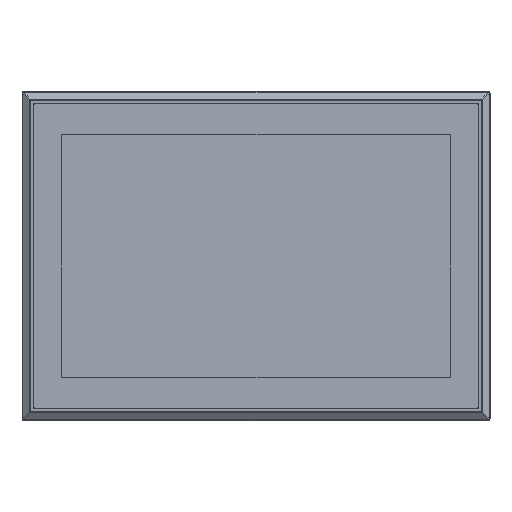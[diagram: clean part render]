
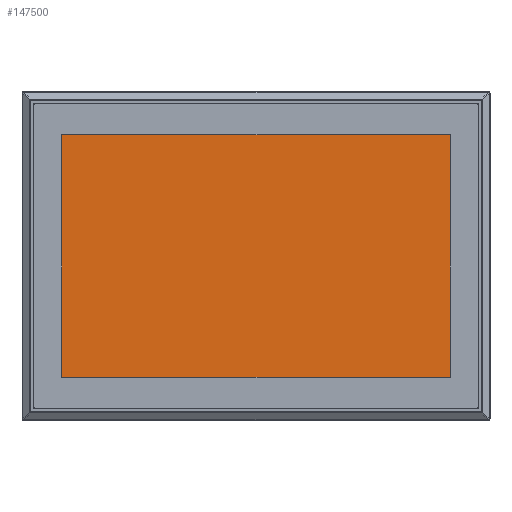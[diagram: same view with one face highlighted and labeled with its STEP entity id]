
A CAD part, top view. The second image highlights one B-rep face of the part: STEP entity #147500.
In plain terms, the highlighted planar face has unit normal (0, 0, 1).
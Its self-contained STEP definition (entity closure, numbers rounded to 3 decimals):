
#19461 = CARTESIAN_POINT ( 'NONE',  ( -130.56, -81.6, 8.6 ) ) ;
#21298 = VERTEX_POINT ( 'NONE', #19461 ) ;
#23590 = EDGE_CURVE ( 'NONE', #170441, #188958, #28050, .T. ) ;
#24344 = LINE ( 'NONE', #157561, #30217 ) ;
#28050 = LINE ( 'NONE', #208237, #82260 ) ;
#30217 = VECTOR ( 'NONE', #153371, 1000. ) ;
#30426 = LINE ( 'NONE', #112464, #70568 ) ;
#33000 = FACE_OUTER_BOUND ( 'NONE', #45987, .T. ) ;
#45987 = EDGE_LOOP ( 'NONE', ( #112349, #170543, #96968, #62326 ) ) ;
#51119 = CARTESIAN_POINT ( 'NONE',  ( -148.44, -101.6, 8.6 ) ) ;
#60405 = CARTESIAN_POINT ( 'NONE',  ( 130.56, 81.6, 8.6 ) ) ;
#61354 = CARTESIAN_POINT ( 'NONE',  ( 130.56, -81.6, 8.6 ) ) ;
#61694 = CARTESIAN_POINT ( 'NONE',  ( -148.44, -81.6, 8.6 ) ) ;
#62326 = ORIENTED_EDGE ( 'NONE', *, *, #120559, .F. ) ;
#67096 = DIRECTION ( 'NONE',  ( 1., 0., 0. ) ) ;
#70568 = VECTOR ( 'NONE', #95462, 1000. ) ;
#82260 = VECTOR ( 'NONE', #192284, 1000. ) ;
#83093 = PLANE ( 'NONE',  #124315 ) ;
#92159 = EDGE_CURVE ( 'NONE', #188958, #153816, #30426, .T. ) ;
#95462 = DIRECTION ( 'NONE',  ( 0., -1., 0. ) ) ;
#96968 = ORIENTED_EDGE ( 'NONE', *, *, #102633, .F. ) ;
#102633 = EDGE_CURVE ( 'NONE', #21298, #170441, #24344, .T. ) ;
#112349 = ORIENTED_EDGE ( 'NONE', *, *, #92159, .F. ) ;
#112464 = CARTESIAN_POINT ( 'NONE',  ( 130.56, -101.6, 8.6 ) ) ;
#120559 = EDGE_CURVE ( 'NONE', #153816, #21298, #206708, .T. ) ;
#124315 = AXIS2_PLACEMENT_3D ( 'NONE', #51119, #134211, #67096 ) ;
#134211 = DIRECTION ( 'NONE',  ( 0., 0., 1. ) ) ;
#147500 = ADVANCED_FACE ( 'NONE', ( #33000 ), #83093, .T. ) ;
#153371 = DIRECTION ( 'NONE',  ( 0., 1., 0. ) ) ;
#153816 = VERTEX_POINT ( 'NONE', #61354 ) ;
#157561 = CARTESIAN_POINT ( 'NONE',  ( -130.56, -101.6, 8.6 ) ) ;
#165301 = CARTESIAN_POINT ( 'NONE',  ( -130.56, 81.6, 8.6 ) ) ;
#165377 = VECTOR ( 'NONE', #176832, 1000. ) ;
#170441 = VERTEX_POINT ( 'NONE', #165301 ) ;
#170543 = ORIENTED_EDGE ( 'NONE', *, *, #23590, .F. ) ;
#176832 = DIRECTION ( 'NONE',  ( -1., 0., 0. ) ) ;
#188958 = VERTEX_POINT ( 'NONE', #60405 ) ;
#192284 = DIRECTION ( 'NONE',  ( 1., 0., 0. ) ) ;
#206708 = LINE ( 'NONE', #61694, #165377 ) ;
#208237 = CARTESIAN_POINT ( 'NONE',  ( -148.44, 81.6, 8.6 ) ) ;
